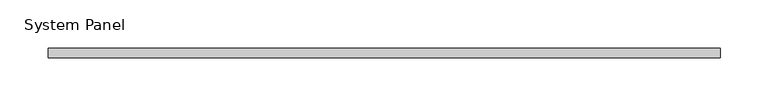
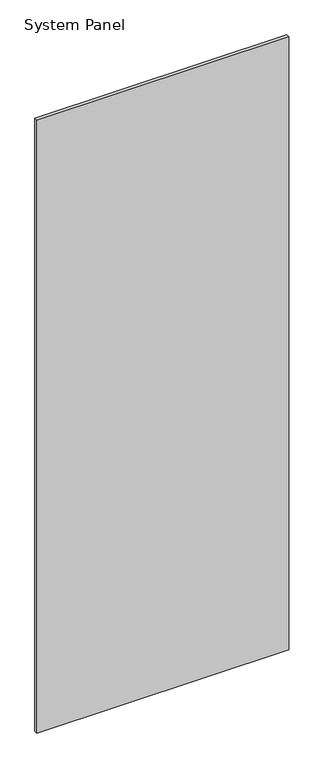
"""IFC4 building model written with IfcOpenShell, lengths in millimetres: plate geometry, System Panel : стекло_смещение_0."""

from ifc_helpers import new_model, si_unit, origin, origin_with_axes, place, context, project, spatial, polyline, outline, extrude, source, transform, mapped, element, save


def system_panel_83626b8a(model_context):
    return source(origin(), model_context, "Body", "SweptSolid", [
        extrude(outline(polyline([(350.0, -5.0), (-350.0, -5.0), (-350.0, 5.0), (350.0, 5.0), (350.0, -5.0)])), origin_with_axes(), (0.0, 0.0, 1.0), 1800.0),
    ])


if __name__ == "__main__":
    model = new_model("IFC4")
    model_context = context("Model", 3, world=origin())
    ifc_project = project(units=[si_unit("LENGTHUNIT", "METRE", prefix="MILLI")], contexts=[model_context])
    site = spatial("IfcSite", under=ifc_project)
    building = spatial("IfcBuilding", under=site)
    placement = place(None, origin())
    system_panel_shape = system_panel_83626b8a(model_context)
    element("IfcPlate", 1, ObjectType="System Panel : стекло_смещение_0", at=placement, inside=building, context=model_context, shape_type="MappedRepresentation", body=[
        mapped(system_panel_shape, transform((0.0, 0.0, 0.0), x_axis=(1.0, 0.0, 0.0), y_axis=(0.0, 1.0, 0.0), z_axis=(0.0, 0.0, 1.0))),
    ])
    save(model, "model.ifc")
